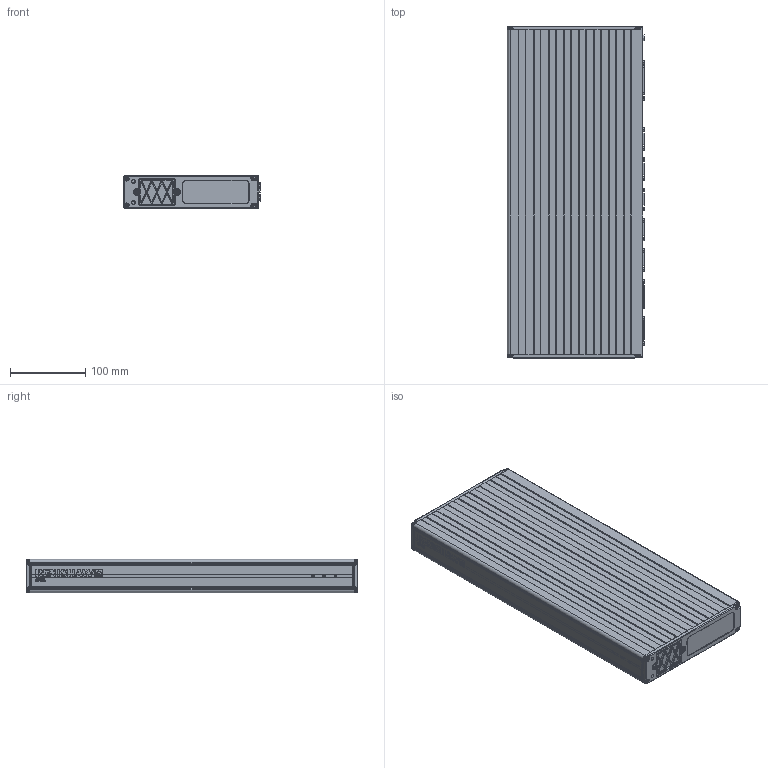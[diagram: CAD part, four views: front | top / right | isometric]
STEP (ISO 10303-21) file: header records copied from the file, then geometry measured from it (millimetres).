
FILE_DESCRIPTION(/* description */ (''),/* implementation_level */ '2;1');
FILE_NAME(/* name */ 'LA-5518-2500_A.stp',/* time_stamp */ '2018-06-05T12:38:05+01:00',/* author */ (''),/* organization */ (''),/* preprocessor_version */ 'ST-DEVELOPER v16',/* originating_system */ 'SIEMENS PLM Software NX 10.0',/* authorisation */ '');
FILE_SCHEMA (('AUTOMOTIVE_DESIGN { 1 0 10303 214 3 1 1 1 }'));
Products named in the file (1): aj061DDC0C52u7fb
Bounding box: 181.69 x 440 x 44.09 mm (x, y, z)
Volume: 524598.7 mm3; surface area: 472300.7 mm2
Topology: 32 solids, 32 shells, 3520 faces, 8673 edges, 5225 vertices
Faces by surface type: plane 1417, cylinder 1000, cone 563, torus 288, bspline 148, sphere 68, extrusion 36
Full cylindrical faces by diameter (mm): 2 x4, 2.9 x8, 3 x3, 3.1 x4, 3.2 x4, 3.5 x30, 3.8 x6, 4.826 x2, 5.39 x1, 5.5 x8, 6.7 x4, 7.333 x1, 7.5 x1, 8 x1, 8.7 x1, 9.82 x1
Entity records: 124948 total; most frequent: CARTESIAN_POINT 27185, DIRECTION 16992, ORIENTED_EDGE 16790, EDGE_CURVE 8395, AXIS2_PLACEMENT_3D 6557, VERTEX_POINT 5159, VECTOR 3878, LINE 3842
